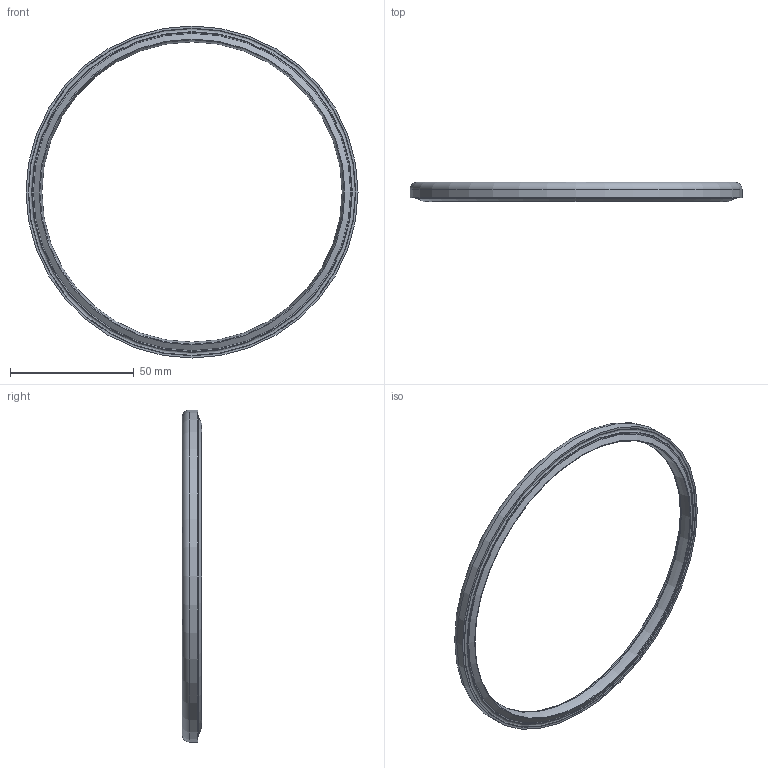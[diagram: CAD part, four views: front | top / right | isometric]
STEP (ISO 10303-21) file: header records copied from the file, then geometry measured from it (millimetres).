
FILE_DESCRIPTION(/* description */ ('STEP AP203'),/* implementation_level */ '2;1');
FILE_NAME(/* name */ 'P_MZ_Z_1868',/* time_stamp */ '2025-04-08T11:44:52+02:00',/* author */ ('License CC BY-ND 4.0'),/* organization */ ('CADENAS'),/* preprocessor_version */ 'ST-DEVELOPER v19.3',/* originating_system */ 'PARTsolutions',/* authorisation */ ' ');
FILE_SCHEMA (('CONFIG_CONTROL_DESIGN'));
Length unit declared in the file: millimetre
Products named in the file (1): P_MZ_Z_1868
Bounding box: 134 x 7.79 x 134 mm (x, y, z)
Volume: 12476.4 mm3; surface area: 9956.9 mm2
Topology: 1 solids, 1 shells, 15 faces, 26 edges, 15 vertices
Faces by surface type: torus 7, plane 4, cylinder 3, cone 1
Full cylindrical faces by diameter (mm): 121.2 x1, 127.5 x1, 134 x1
Entity records: 338 total; most frequent: DIRECTION 62, CARTESIAN_POINT 46, AXIS2_PLACEMENT_3D 31, ORIENTED_EDGE 30, EDGE_LOOP 30, FACE_BOUND 30, EDGE_CURVE 15, VERTEX_POINT 15
